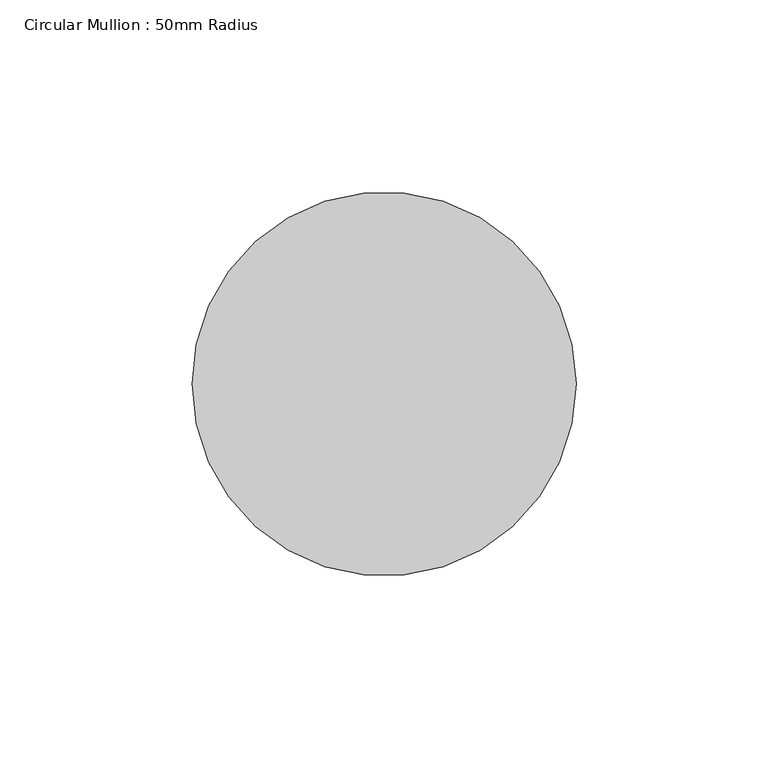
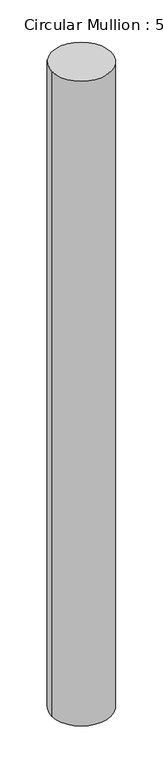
"""IFC4 building model written with IfcOpenShell, lengths in millimetres: member geometry, Circular Mullion : 50mm Radius."""

from ifc_helpers import new_model, si_unit, point, frame, frame_2d, origin, place, context, project, spatial, circle_curve, trimmed, segment, composite_curve, outline, extrude, source, transform, mapped, element, save


def circular_mullion_50mm_radius_58e05b09(model_context):
    return source(origin(), model_context, "Body", "SweptSolid", [
        extrude(outline(composite_curve([segment(trimmed(circle_curve(frame_2d((-50.0, 0.0)), 50.0), [point((0.0, 0.0))], [point((-100.0, 0.0))], False, "CARTESIAN"), True, "CONTINUOUS"), segment(trimmed(circle_curve(frame_2d((-50.0, 0.0)), 50.0), [point((-100.0, 0.0))], [point((0.0, 0.0))], False, "CARTESIAN"), True, "CONTINUOUS")], self_intersect=False)), frame((0.0, 0.0, -1152.3809524), z_axis=(0.0, 0.0, 1.0), x_axis=(1.0, 0.0, 0.0)), (0.0, 0.0, 1.0), 1152.3809524),
    ])


if __name__ == "__main__":
    model = new_model("IFC4")
    model_context = context("Model", 3, world=origin())
    ifc_project = project(units=[si_unit("LENGTHUNIT", "METRE", prefix="MILLI")], contexts=[model_context])
    site = spatial("IfcSite", under=ifc_project)
    building = spatial("IfcBuilding", under=site)
    placement = place(None, origin())
    circular_mullion_50mm_radius_shape = circular_mullion_50mm_radius_58e05b09(model_context)
    element("IfcMember", 1, ObjectType="Circular Mullion : 50mm Radius", at=placement, inside=building, context=model_context, shape_type="MappedRepresentation", body=[
        mapped(circular_mullion_50mm_radius_shape, transform((0.0, 0.0, 0.0), x_axis=(1.0, 0.0, 0.0), y_axis=(0.0, 1.0, 0.0), z_axis=(0.0, 0.0, 1.0))),
    ])
    save(model, "model.ifc")
